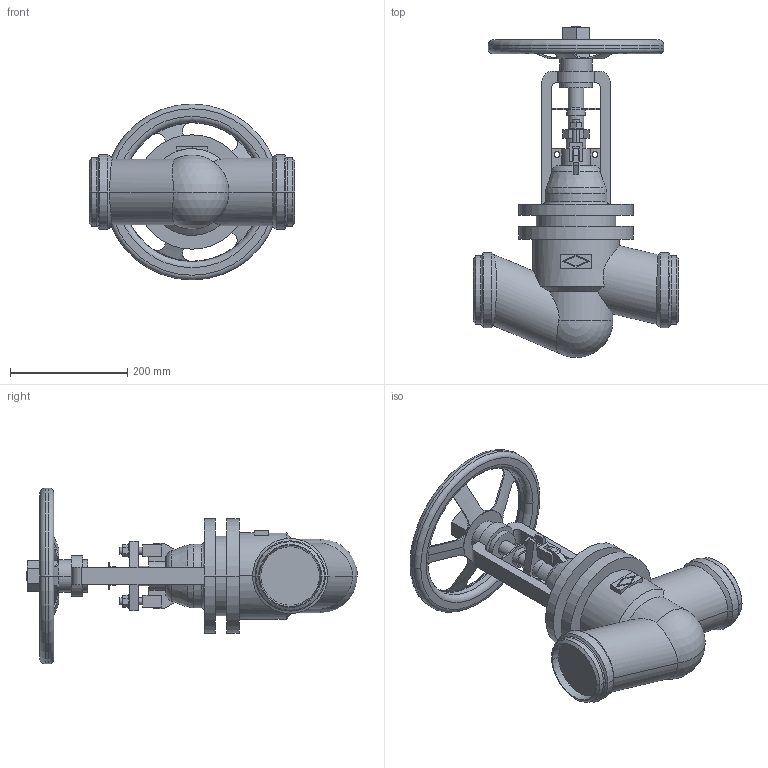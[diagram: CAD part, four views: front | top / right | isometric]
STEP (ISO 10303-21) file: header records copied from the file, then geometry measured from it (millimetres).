
FILE_DESCRIPTION(('OneSpaceDesigner STEP Export'),'2;1');
FILE_NAME('c000004328.stp','2010-05-06T10:47:33',(''),(''),'OneSpace Designer STEP processor for AP214 (Solid Model)','OneSpace Modeling 15.50B 03-Nov-2007 (C) CoCreate Software GmbH','');
FILE_SCHEMA(('AUTOMOTIVE_DESIGN { 1 0 10303 214 1 1 1 1 }'));
Length unit declared in the file: millimetre
Products named in the file (1): 1
Bounding box: 350 x 564.7 x 300 mm (x, y, z)
Volume: 8308216.9 mm3; surface area: 533427.1 mm2
Topology: 1 solids, 1 shells, 311 faces, 843 edges, 545 vertices
Faces by surface type: plane 141, cylinder 114, cone 28, torus 26, sphere 2
Entity records: 13180 total; most frequent: CARTESIAN_POINT 3409, ORIENTED_EDGE 1666, DIRECTION 1305, EDGE_CURVE 833, VERTEX_POINT 541, AXIS2_PLACEMENT_3D 447, VECTOR 411, LINE 411
